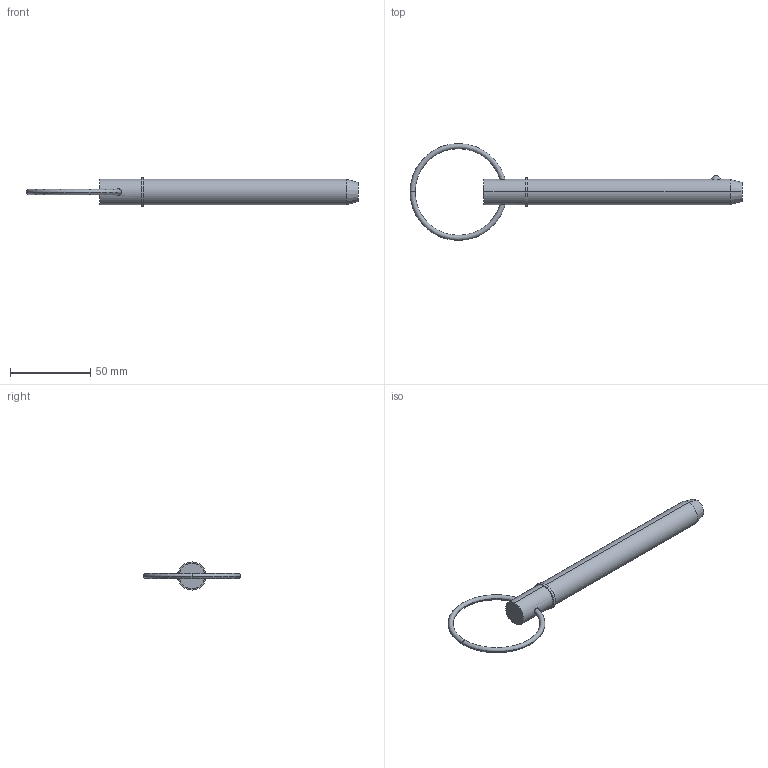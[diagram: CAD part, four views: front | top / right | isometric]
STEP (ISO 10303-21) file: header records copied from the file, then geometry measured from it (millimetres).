
FILE_DESCRIPTION (( 'STEP AP203' ), '1' );
FILE_NAME ('33016.W6245.step', '2024-11-07T11:13:09', ( '' ), ( '' ), 'SwSTEP 2.0', 'SolidWorks 2019', '' );
FILE_SCHEMA (( 'CONFIG_CONTROL_DESIGN' ));
Length unit declared in the file: millimetre
Products named in the file (3): Part1_33016.W6245; 33016.W6245; Part2_33016.W6245
Assembly tree (2 placements, depth 2):
  33016.W6245
    Part1_33016.W6245
    Part2_33016.W6245
Bounding box: 206.68 x 60.33 x 17.47 mm (x, y, z)
Volume: 32810.3 mm3; surface area: 10361.9 mm2
Topology: 2 solids, 2 shells, 22 faces, 43 edges, 26 vertices
Faces by surface type: torus 8, cylinder 6, plane 4, sphere 2, cone 2
Entity records: 1047 total; most frequent: CARTESIAN_POINT 270, DIRECTION 120, ORIENTED_EDGE 86, AXIS2_PLACEMENT_3D 56, EDGE_CURVE 43, CIRCLE 29, EDGE_LOOP 27, VERTEX_POINT 26
